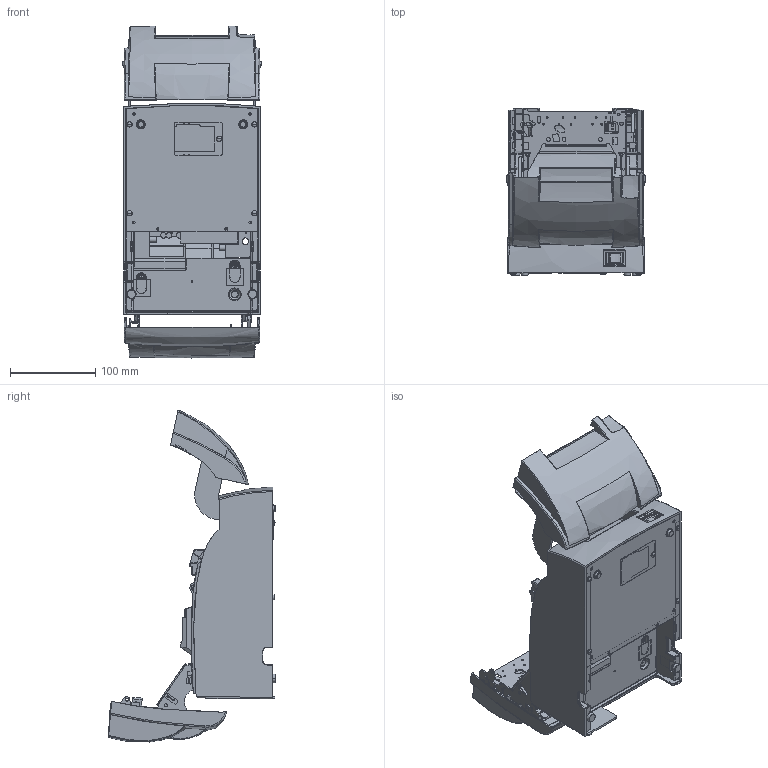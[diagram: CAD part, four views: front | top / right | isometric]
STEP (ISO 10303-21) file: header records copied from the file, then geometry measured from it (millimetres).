
FILE_DESCRIPTION((''),'2;1');
FILE_NAME('TM-U220IIB_OPEN','2024-12-26T14:09:13',('5012938'),(''),'CREO PARAMETRIC BY PTC INC, 2022281','CREO PARAMETRIC BY PTC INC, 2022281','');
FILE_SCHEMA(('AUTOMOTIVE_DESIGN { 1 0 10303 214 1 1 1 1 }'));
Products named in the file (1): TM-U220IIB_OPEN
Bounding box: 162.5 x 196.48 x 388.81 mm (x, y, z)
Surface area: 593278.3 mm2 (no closed solid volume)
Topology: 0 solids, 80 shells, 4307 faces, 13191 edges, 8689 vertices
Faces by surface type: plane 2192, cylinder 1310, bspline 428, cone 155, extrusion 112, torus 75, sphere 35
Entity records: 189236 total; most frequent: CARTESIAN_POINT 74760, ORIENTED_EDGE 24186, DIRECTION 22157, EDGE_CURVE 13172, VERTEX_POINT 8689, VECTOR 8033, LINE 7921, AXIS2_PLACEMENT_3D 7062
